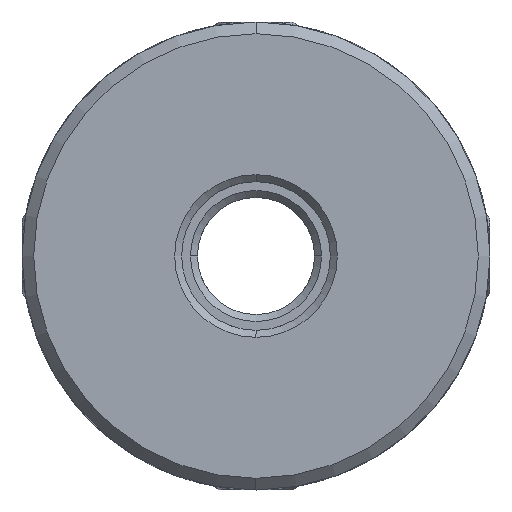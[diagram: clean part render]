
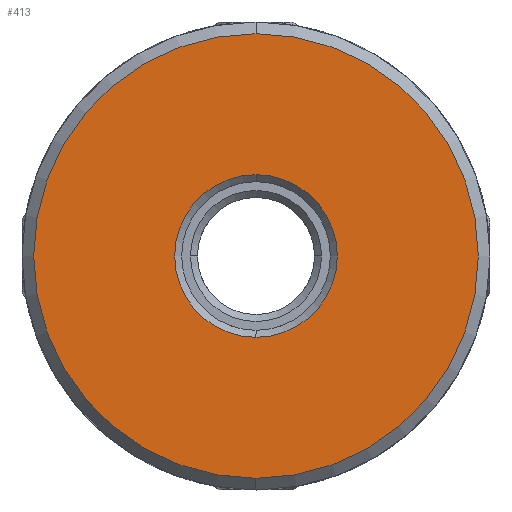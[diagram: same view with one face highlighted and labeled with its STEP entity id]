
A CAD part, front view. The second image highlights one B-rep face of the part: STEP entity #413.
In plain terms, the highlighted planar face has unit normal (0, -1, 0).
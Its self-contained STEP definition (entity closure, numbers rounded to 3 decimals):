
#26 = DIRECTION ( 'NONE',  ( 0., 0., -1. ) ) ;
#62 = DIRECTION ( 'NONE',  ( 0., 1., 0. ) ) ;
#123 = EDGE_CURVE ( 'NONE', #1064, #8441, #8824, .T. ) ;
#169 = CARTESIAN_POINT ( 'NONE',  ( 0., -23., -3.475 ) ) ;
#170 = VERTEX_POINT ( 'NONE', #7774 ) ;
#368 = CARTESIAN_POINT ( 'NONE',  ( 0., -23., 9.5 ) ) ;
#413 = ADVANCED_FACE ( 'NONE', ( #2703, #701 ), #4371, .F. ) ;
#669 = DIRECTION ( 'NONE',  ( 0., 0., -1. ) ) ;
#701 = FACE_OUTER_BOUND ( 'NONE', #6671, .T. ) ;
#799 = AXIS2_PLACEMENT_3D ( 'NONE', #3615, #2891, #5186 ) ;
#1064 = VERTEX_POINT ( 'NONE', #3075 ) ;
#1156 = ORIENTED_EDGE ( 'NONE', *, *, #123, .T. ) ;
#1168 = ORIENTED_EDGE ( 'NONE', *, *, #3043, .T. ) ;
#1619 = ORIENTED_EDGE ( 'NONE', *, *, #1716, .T. ) ;
#1716 = EDGE_CURVE ( 'NONE', #170, #9063, #4691, .T. ) ;
#2336 = DIRECTION ( 'NONE',  ( 0., 0., -1. ) ) ;
#2537 = ORIENTED_EDGE ( 'NONE', *, *, #9316, .T. ) ;
#2703 = FACE_BOUND ( 'NONE', #3240, .T. ) ;
#2891 = DIRECTION ( 'NONE',  ( 0., 1., 0. ) ) ;
#2907 = AXIS2_PLACEMENT_3D ( 'NONE', #4576, #62, #2336 ) ;
#3040 = CARTESIAN_POINT ( 'NONE',  ( 0., -23., 0. ) ) ;
#3043 = EDGE_CURVE ( 'NONE', #9063, #170, #8309, .T. ) ;
#3075 = CARTESIAN_POINT ( 'NONE',  ( 0., -23., 3.475 ) ) ;
#3240 = EDGE_LOOP ( 'NONE', ( #1156, #2537 ) ) ;
#3281 = DIRECTION ( 'NONE',  ( 0., 0., -1. ) ) ;
#3341 = AXIS2_PLACEMENT_3D ( 'NONE', #3722, #4476, #26 ) ;
#3615 = CARTESIAN_POINT ( 'NONE',  ( 50., -23., -15.365 ) ) ;
#3722 = CARTESIAN_POINT ( 'NONE',  ( 0., -23., 0. ) ) ;
#4019 = AXIS2_PLACEMENT_3D ( 'NONE', #3040, #7460, #669 ) ;
#4371 = PLANE ( 'NONE',  #799 ) ;
#4476 = DIRECTION ( 'NONE',  ( 0., -1., 0. ) ) ;
#4576 = CARTESIAN_POINT ( 'NONE',  ( 0., -23., 0. ) ) ;
#4691 = CIRCLE ( 'NONE', #3341, 9.5 ) ;
#5186 = DIRECTION ( 'NONE',  ( 0., 0., -1. ) ) ;
#5583 = DIRECTION ( 'NONE',  ( 0., 1., 0. ) ) ;
#6671 = EDGE_LOOP ( 'NONE', ( #1619, #1168 ) ) ;
#7460 = DIRECTION ( 'NONE',  ( 0., -1., 0. ) ) ;
#7774 = CARTESIAN_POINT ( 'NONE',  ( 0., -23., -9.5 ) ) ;
#8189 = CIRCLE ( 'NONE', #2907, 3.475 ) ;
#8309 = CIRCLE ( 'NONE', #4019, 9.5 ) ;
#8441 = VERTEX_POINT ( 'NONE', #169 ) ;
#8824 = CIRCLE ( 'NONE', #9102, 3.475 ) ;
#9063 = VERTEX_POINT ( 'NONE', #368 ) ;
#9102 = AXIS2_PLACEMENT_3D ( 'NONE', #9333, #5583, #3281 ) ;
#9316 = EDGE_CURVE ( 'NONE', #8441, #1064, #8189, .T. ) ;
#9333 = CARTESIAN_POINT ( 'NONE',  ( 0., -23., 0. ) ) ;
